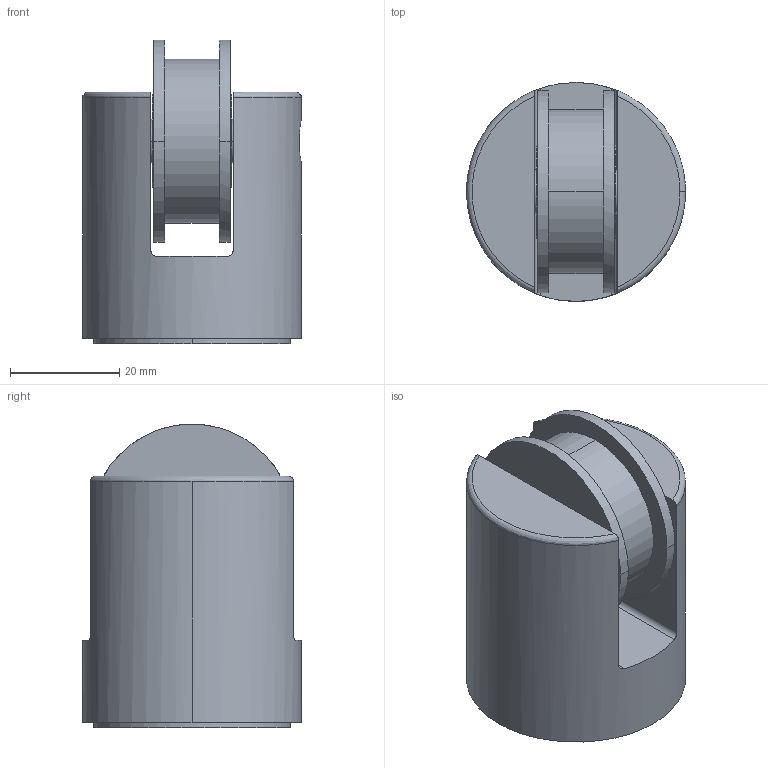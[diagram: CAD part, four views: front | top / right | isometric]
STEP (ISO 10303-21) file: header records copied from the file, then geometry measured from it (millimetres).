
FILE_DESCRIPTION(/* description */ (''),/* implementation_level */ '2;1');
FILE_NAME(/* name */ 'Funivia - Diverter Large',/* time_stamp */ '2022-08-29T17:17:32+02:00',/* author */ (''),/* organization */ (''),/* preprocessor_version */ 'ST-DEVELOPER v16.5',/* originating_system */ 'Rhino 7.17',/* authorisation */ '');
FILE_SCHEMA (('AUTOMOTIVE_DESIGN'));
Length unit declared in the file: millimetre
Products named in the file (1): Document
Bounding box: 40 x 40 x 55.48 mm (x, y, z)
Volume: 49624.7 mm3; surface area: 18108.6 mm2
Topology: 4 solids, 4 shells, 77 faces, 178 edges, 115 vertices
Faces by surface type: cylinder 38, plane 26, bspline 13
Entity records: 2567 total; most frequent: CARTESIAN_POINT 1319, ORIENTED_EDGE 352, EDGE_CURVE 176, VERTEX_POINT 115, EDGE_LOOP 93, B_SPLINE_CURVE_WITH_KNOTS 83, ADVANCED_FACE 77, FACE_OUTER_BOUND 77
